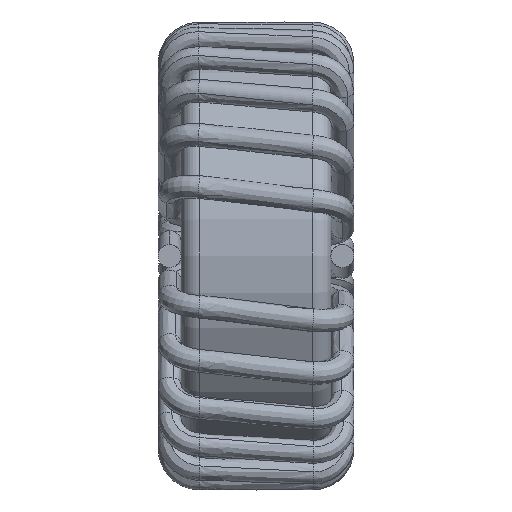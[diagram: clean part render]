
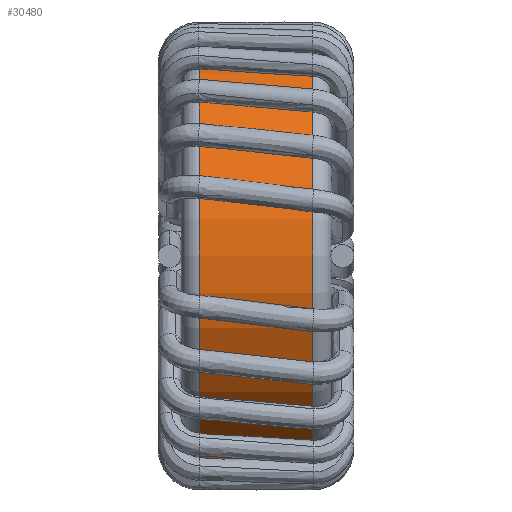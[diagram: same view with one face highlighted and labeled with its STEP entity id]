
A CAD part, left-side view. The second image highlights one B-rep face of the part: STEP entity #30480.
In plain terms, the highlighted cylindrical face has radius 11.81 mm (diameter 23.62 mm), a partial arc.
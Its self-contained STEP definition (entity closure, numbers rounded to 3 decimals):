
#1803 = ORIENTED_EDGE ( 'NONE', *, *, #22204, .F. ) ;
#5768 = EDGE_CURVE ( 'NONE', #38020, #32094, #22645, .T. ) ;
#6567 = DIRECTION ( 'NONE',  ( 0., -1., 0. ) ) ;
#7564 = EDGE_LOOP ( 'NONE', ( #1803, #9709, #19468, #12492 ) ) ;
#7652 = CARTESIAN_POINT ( 'NONE',  ( 14.942, 19.349, 33.885 ) ) ;
#8832 = AXIS2_PLACEMENT_3D ( 'NONE', #31680, #28155, #9355 ) ;
#9024 = VECTOR ( 'NONE', #35519, 1000. ) ;
#9355 = DIRECTION ( 'NONE',  ( 0., 0., 1. ) ) ;
#9709 = ORIENTED_EDGE ( 'NONE', *, *, #13406, .T. ) ;
#9935 = VERTEX_POINT ( 'NONE', #37709 ) ;
#10953 = DIRECTION ( 'NONE',  ( 0., 0., 1. ) ) ;
#11265 = AXIS2_PLACEMENT_3D ( 'NONE', #7652, #38666, #10953 ) ;
#12492 = ORIENTED_EDGE ( 'NONE', *, *, #19048, .T. ) ;
#13406 = EDGE_CURVE ( 'NONE', #39660, #38020, #24919, .T. ) ;
#16605 = CARTESIAN_POINT ( 'NONE',  ( 14.942, 26.729, 22.075 ) ) ;
#17064 = DIRECTION ( 'NONE',  ( 0., -1., 0. ) ) ;
#19048 = EDGE_CURVE ( 'NONE', #32094, #9935, #38260, .T. ) ;
#19468 = ORIENTED_EDGE ( 'NONE', *, *, #5768, .T. ) ;
#20825 = LINE ( 'NONE', #35388, #9024 ) ;
#21437 = CARTESIAN_POINT ( 'NONE',  ( 14.942, 25.729, 22.075 ) ) ;
#22204 = EDGE_CURVE ( 'NONE', #39660, #9935, #20825, .T. ) ;
#22645 = LINE ( 'NONE', #16605, #38366 ) ;
#23698 = CARTESIAN_POINT ( 'NONE',  ( 14.942, 25.729, 45.695 ) ) ;
#24919 = CIRCLE ( 'NONE', #8832, 11.81 ) ;
#26861 = CARTESIAN_POINT ( 'NONE',  ( 14.942, 19.349, 22.075 ) ) ;
#27713 = CYLINDRICAL_SURFACE ( 'NONE', #30366, 11.81 ) ;
#28155 = DIRECTION ( 'NONE',  ( 0., -1., 0. ) ) ;
#30366 = AXIS2_PLACEMENT_3D ( 'NONE', #33219, #17064, #32799 ) ;
#30480 = ADVANCED_FACE ( 'NONE', ( #36553 ), #27713, .T. ) ;
#31680 = CARTESIAN_POINT ( 'NONE',  ( 14.942, 25.729, 33.885 ) ) ;
#32094 = VERTEX_POINT ( 'NONE', #26861 ) ;
#32799 = DIRECTION ( 'NONE',  ( 0., 0., -1. ) ) ;
#33219 = CARTESIAN_POINT ( 'NONE',  ( 14.942, 26.729, 33.885 ) ) ;
#35388 = CARTESIAN_POINT ( 'NONE',  ( 14.942, 26.729, 45.695 ) ) ;
#35519 = DIRECTION ( 'NONE',  ( 0., -1., 0. ) ) ;
#36553 = FACE_OUTER_BOUND ( 'NONE', #7564, .T. ) ;
#37709 = CARTESIAN_POINT ( 'NONE',  ( 14.942, 19.349, 45.695 ) ) ;
#38020 = VERTEX_POINT ( 'NONE', #21437 ) ;
#38260 = CIRCLE ( 'NONE', #11265, 11.81 ) ;
#38366 = VECTOR ( 'NONE', #6567, 1000. ) ;
#38666 = DIRECTION ( 'NONE',  ( 0., 1., 0. ) ) ;
#39660 = VERTEX_POINT ( 'NONE', #23698 ) ;
